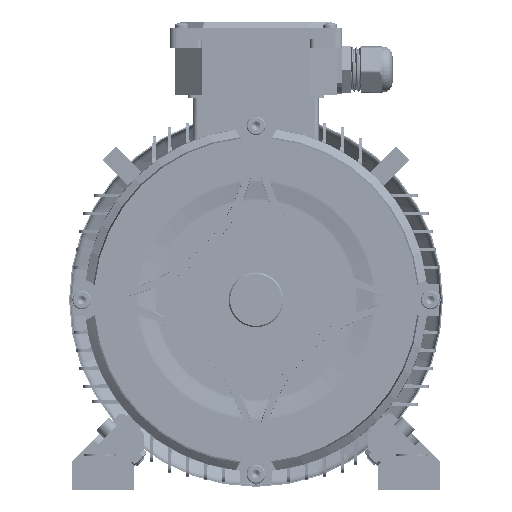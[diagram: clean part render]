
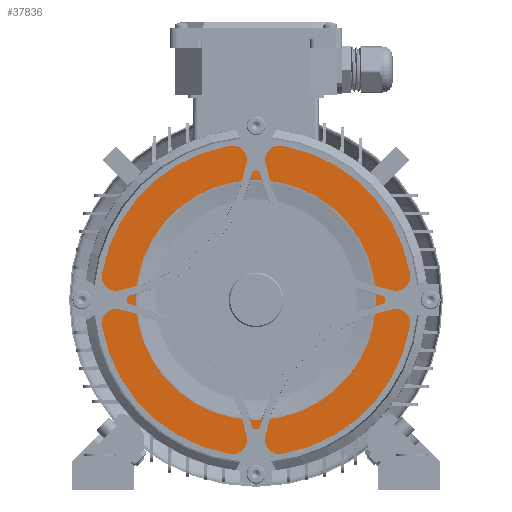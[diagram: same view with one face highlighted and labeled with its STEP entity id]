
A CAD part, front view. The second image highlights one B-rep face of the part: STEP entity #37836.
In plain terms, the highlighted planar face has unit normal (0, -1, 0).
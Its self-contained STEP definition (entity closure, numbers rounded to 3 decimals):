
#532 = AXIS2_PLACEMENT_3D ( 'NONE', #54450, #126317, #65139 ) ;
#5086 = EDGE_LOOP ( 'NONE', ( #11801, #50676 ) ) ;
#5985 = DIRECTION ( 'NONE',  ( 0., -1., 0. ) ) ;
#6812 = CIRCLE ( 'NONE', #92485, 108.5 ) ;
#9085 = CIRCLE ( 'NONE', #59496, 108.5 ) ;
#9947 = CARTESIAN_POINT ( 'NONE',  ( 0., 4., 0. ) ) ;
#11801 = ORIENTED_EDGE ( 'NONE', *, *, #55462, .T. ) ;
#13518 = VERTEX_POINT ( 'NONE', #88215 ) ;
#17002 = CARTESIAN_POINT ( 'NONE',  ( 0., 4., -108.5 ) ) ;
#20185 = DIRECTION ( 'NONE',  ( 0., 0., -1. ) ) ;
#20386 = EDGE_CURVE ( 'NONE', #111758, #13518, #122644, .T. ) ;
#22760 = CARTESIAN_POINT ( 'NONE',  ( 0., 4., 83.295 ) ) ;
#26826 = EDGE_CURVE ( 'NONE', #13518, #111758, #125145, .T. ) ;
#27698 = AXIS2_PLACEMENT_3D ( 'NONE', #9947, #81298, #20185 ) ;
#29630 = AXIS2_PLACEMENT_3D ( 'NONE', #54479, #125886, #64732 ) ;
#31497 = FACE_OUTER_BOUND ( 'NONE', #5086, .T. ) ;
#36679 = ORIENTED_EDGE ( 'NONE', *, *, #20386, .F. ) ;
#37836 = ADVANCED_FACE ( 'NONE', ( #31497, #48993 ), #54889, .T. ) ;
#48101 = CARTESIAN_POINT ( 'NONE',  ( 0., 4., 0. ) ) ;
#48993 = FACE_BOUND ( 'NONE', #120879, .T. ) ;
#50676 = ORIENTED_EDGE ( 'NONE', *, *, #114552, .T. ) ;
#52549 = ORIENTED_EDGE ( 'NONE', *, *, #26826, .F. ) ;
#54450 = CARTESIAN_POINT ( 'NONE',  ( 83.295, 4., 0. ) ) ;
#54479 = CARTESIAN_POINT ( 'NONE',  ( 0., 4., 0. ) ) ;
#54889 = PLANE ( 'NONE',  #532 ) ;
#55462 = EDGE_CURVE ( 'NONE', #115300, #87333, #6812, .T. ) ;
#58383 = DIRECTION ( 'NONE',  ( 0., 0., -1. ) ) ;
#59496 = AXIS2_PLACEMENT_3D ( 'NONE', #67068, #5985, #77359 ) ;
#64732 = DIRECTION ( 'NONE',  ( 0., 0., -1. ) ) ;
#65139 = DIRECTION ( 'NONE',  ( 0., 0., -1. ) ) ;
#67068 = CARTESIAN_POINT ( 'NONE',  ( 0., 4., 0. ) ) ;
#71122 = CARTESIAN_POINT ( 'NONE',  ( 0., 4., 108.5 ) ) ;
#77359 = DIRECTION ( 'NONE',  ( 0., 0., -1. ) ) ;
#81298 = DIRECTION ( 'NONE',  ( 0., -1., 0. ) ) ;
#87333 = VERTEX_POINT ( 'NONE', #71122 ) ;
#88215 = CARTESIAN_POINT ( 'NONE',  ( 0., 4., -83.295 ) ) ;
#92485 = AXIS2_PLACEMENT_3D ( 'NONE', #48101, #119548, #58383 ) ;
#111758 = VERTEX_POINT ( 'NONE', #22760 ) ;
#114552 = EDGE_CURVE ( 'NONE', #87333, #115300, #9085, .T. ) ;
#115300 = VERTEX_POINT ( 'NONE', #17002 ) ;
#119548 = DIRECTION ( 'NONE',  ( 0., -1., 0. ) ) ;
#120879 = EDGE_LOOP ( 'NONE', ( #52549, #36679 ) ) ;
#122644 = CIRCLE ( 'NONE', #29630, 83.295 ) ;
#125145 = CIRCLE ( 'NONE', #27698, 83.295 ) ;
#125886 = DIRECTION ( 'NONE',  ( 0., -1., 0. ) ) ;
#126317 = DIRECTION ( 'NONE',  ( 0., -1., 0. ) ) ;
